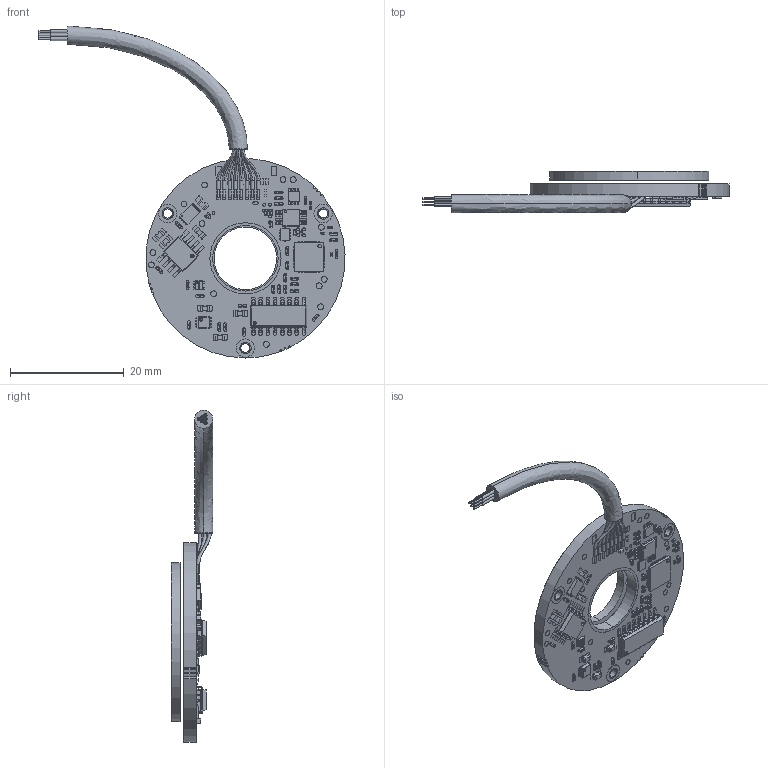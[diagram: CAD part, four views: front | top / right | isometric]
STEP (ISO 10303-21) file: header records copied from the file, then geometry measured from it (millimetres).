
FILE_DESCRIPTION (( 'STEP AP214' ), '1' );
FILE_NAME ('VLP-35 16-15 Hollow rotor.STEP', '2025-03-23T13:18:00', ( '' ), ( '' ), 'SwSTEP 2.0', 'SolidWorks 2022', '' );
FILE_SCHEMA (( 'AUTOMOTIVE_DESIGN' ));
Length unit declared in the file: millimetre
Products named in the file (6): PB-00142_F 16 C 15; EA-00142_Without connector; VLP-35 16-15 Hollow rotor; PB-00552_Fine 16 Coarse 15; VLP-35 cable_Flying leads; PB-00142-00-STP_Without connector
Assembly tree (5 placements, depth 3):
  VLP-35 16-15 Hollow rotor
    EA-00142_Without connector
      PB-00142_F 16 C 15
      PB-00142-00-STP_Without connector
    PB-00552_Fine 16 Coarse 15
    VLP-35 cable_Flying leads
Bounding box: 53.74 x 7.33 x 58.3 mm (x, y, z)
Volume: 3022.2 mm3; surface area: 4583 mm2
Topology: 28 solids, 275 shells, 7110 faces, 17371 edges, 11266 vertices
Faces by surface type: plane 4522, cylinder 1257, bspline 1189, sphere 132, cone 6, torus 4
Entity records: 350936 total; most frequent: CARTESIAN_POINT 110486, ORIENTED_EDGE 34456, DIRECTION 29294, EDGE_CURVE 17244, VECTOR 12290, LINE 12290, VERTEX_POINT 11308, AXIS2_PLACEMENT_3D 8502
